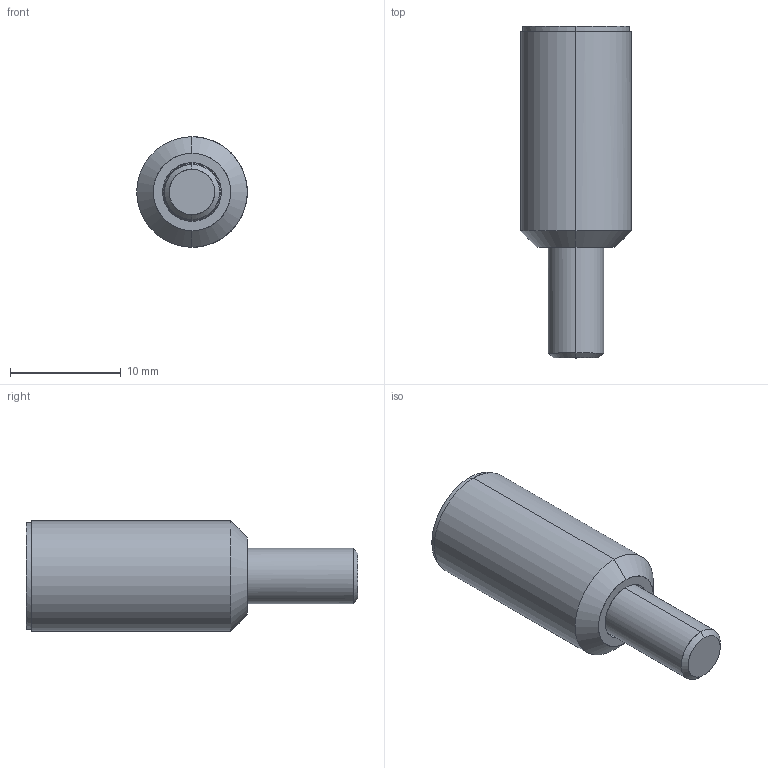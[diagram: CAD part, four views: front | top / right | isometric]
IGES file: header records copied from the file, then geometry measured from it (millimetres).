
Start section: START RECORD GO HERE.
Global section: file name: po200530.igs; native system: DASSAULT SYSTEMES CATIA V5 R20 - www.3ds.com; preprocessor: CATIA Version 5 Release 20 ; author: Utente; organization: NB04-ASUS; date: 20201103.211117; units: millimetre
Bounding box: 10 x 30 x 10 mm (x, y, z)
Surface area: 1635.3 mm2 (no closed solid volume)
Topology: 0 solids, 0 shells, 36 faces, 150 edges, 148 vertices
Faces by surface type: revolution 20, plane 16
